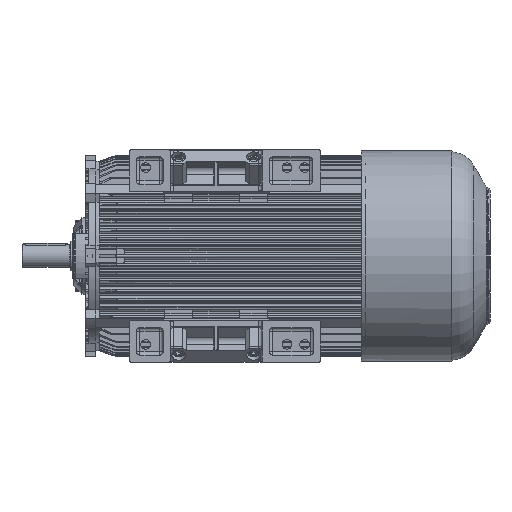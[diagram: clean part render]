
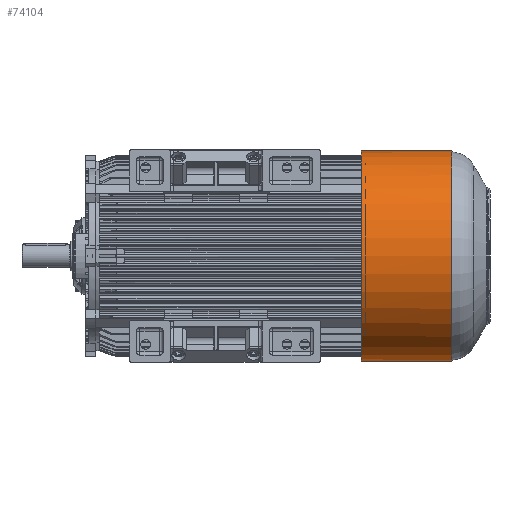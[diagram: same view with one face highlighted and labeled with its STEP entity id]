
A CAD part, front view. The second image highlights one B-rep face of the part: STEP entity #74104.
In plain terms, the highlighted cylindrical face has radius 302.496 mm (diameter 604.992 mm), a full revolution.
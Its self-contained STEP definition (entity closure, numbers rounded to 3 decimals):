
#2602=B_SPLINE_CURVE_WITH_KNOTS('',3,(#101230,#101231,#101232,#101233,#101234,
#101235,#101236,#101237,#101238,#101239,#101240,#101241,#101242,#101243,
#101244,#101245,#101246,#101247,#101248,#101249,#101250,#101251,#101252,
#101253,#101254,#101255,#101256,#101257,#101258),.UNSPECIFIED.,.F.,.F.,
(4,1,1,1,1,1,1,1,1,1,1,1,1,1,1,1,1,1,1,1,1,1,1,1,1,1,4),(0.,0.01,
0.015,0.02,0.03,0.04,
0.05,0.055,0.06,0.065,
0.07,0.075,0.08,0.085,
0.09,0.095,0.1,0.105,
0.11,0.12,0.125,0.13,
0.135,0.14,0.145,0.15,
0.16),.UNSPECIFIED.);
#4708=CIRCLE('',#78616,302.496);
#4709=CIRCLE('',#78617,302.496);
#4712=CIRCLE('',#78623,302.496);
#4719=CIRCLE('',#78638,302.496);
#13968=ORIENTED_EDGE('',*,*,#25458,.T.);
#13969=ORIENTED_EDGE('',*,*,#25454,.F.);
#13970=ORIENTED_EDGE('',*,*,#25447,.F.);
#13971=ORIENTED_EDGE('',*,*,#22788,.T.);
#13972=ORIENTED_EDGE('',*,*,#25446,.F.);
#13973=ORIENTED_EDGE('',*,*,#25453,.F.);
#13974=ORIENTED_EDGE('',*,*,#25465,.F.);
#22788=EDGE_CURVE('',#30002,#30000,#2602,.T.);
#25446=EDGE_CURVE('',#31773,#30000,#4708,.T.);
#25447=EDGE_CURVE('',#30002,#31774,#4709,.T.);
#25453=EDGE_CURVE('',#31778,#31773,#36461,.F.);
#25454=EDGE_CURVE('',#31774,#31779,#36462,.T.);
#25458=EDGE_CURVE('',#31782,#31782,#4712,.T.);
#25465=EDGE_CURVE('',#31779,#31778,#4719,.T.);
#30000=VERTEX_POINT('',#101228);
#30002=VERTEX_POINT('',#101259);
#31773=VERTEX_POINT('',#111733);
#31774=VERTEX_POINT('',#111735);
#31778=VERTEX_POINT('',#111745);
#31779=VERTEX_POINT('',#111749);
#31782=VERTEX_POINT('',#111757);
#36461=LINE('',#111746,#40231);
#36462=LINE('',#111748,#40232);
#40231=VECTOR('',#89408,1000.);
#40232=VECTOR('',#89411,1000.);
#43412=EDGE_LOOP('',(#13968));
#43413=EDGE_LOOP('',(#13969,#13970,#13971,#13972,#13973,#13974));
#47180=FACE_BOUND('',#43412,.T.);
#47181=FACE_BOUND('',#43413,.T.);
#49849=CYLINDRICAL_SURFACE('',#78639,302.496);
#74104=ADVANCED_FACE('',(#47180,#47181),#49849,.T.);
#78616=AXIS2_PLACEMENT_3D('',#111732,#89396,#89397);
#78617=AXIS2_PLACEMENT_3D('',#111734,#89398,#89399);
#78623=AXIS2_PLACEMENT_3D('',#111756,#89418,#89419);
#78638=AXIS2_PLACEMENT_3D('',#111777,#89448,#89449);
#78639=AXIS2_PLACEMENT_3D('',#111778,#89450,#89451);
#89396=DIRECTION('',(-1.,0.,0.));
#89397=DIRECTION('',(0.,0.,1.));
#89398=DIRECTION('',(-1.,0.,0.));
#89399=DIRECTION('',(0.,0.,1.));
#89408=DIRECTION('',(-1.,0.,0.));
#89411=DIRECTION('',(-1.,0.,0.));
#89418=DIRECTION('',(-1.,0.,0.));
#89419=DIRECTION('',(0.,1.,0.));
#89448=DIRECTION('',(-1.,0.,0.));
#89449=DIRECTION('',(0.,1.,0.));
#89450=DIRECTION('',(-1.,0.,0.));
#89451=DIRECTION('',(0.,1.,0.));
#101228=CARTESIAN_POINT('',(758.824,297.83,52.926));
#101230=CARTESIAN_POINT('',(758.824,297.83,-52.926));
#101231=CARTESIAN_POINT('',(762.21,297.862,-52.747));
#101232=CARTESIAN_POINT('',(767.182,297.995,-51.998));
#101233=CARTESIAN_POINT('',(773.594,298.322,-50.088));
#101234=CARTESIAN_POINT('',(779.88,298.743,-47.536));
#101235=CARTESIAN_POINT('',(787.068,299.394,-43.347));
#101236=CARTESIAN_POINT('',(794.742,300.297,-36.654));
#101237=CARTESIAN_POINT('',(799.863,301.018,-30.112));
#101238=CARTESIAN_POINT('',(803.244,301.535,-24.241));
#101239=CARTESIAN_POINT('',(805.321,301.868,-19.67));
#101240=CARTESIAN_POINT('',(806.955,302.14,-14.941));
#101241=CARTESIAN_POINT('',(808.145,302.343,-10.038));
#101242=CARTESIAN_POINT('',(808.866,302.469,-5.004));
#101243=CARTESIAN_POINT('',(809.1,302.51,0.004));
#101244=CARTESIAN_POINT('',(808.865,302.469,5.015));
#101245=CARTESIAN_POINT('',(808.142,302.343,10.055));
#101246=CARTESIAN_POINT('',(806.952,302.139,14.949));
#101247=CARTESIAN_POINT('',(805.317,301.867,19.681));
#101248=CARTESIAN_POINT('',(803.232,301.533,24.266));
#101249=CARTESIAN_POINT('',(799.853,301.016,30.125));
#101250=CARTESIAN_POINT('',(795.758,300.44,35.352));
#101251=CARTESIAN_POINT('',(790.878,299.842,40.033));
#101252=CARTESIAN_POINT('',(786.937,299.408,43.146));
#101253=CARTESIAN_POINT('',(782.743,299.003,45.862));
#101254=CARTESIAN_POINT('',(778.287,298.636,48.185));
#101255=CARTESIAN_POINT('',(773.575,298.321,50.094));
#101256=CARTESIAN_POINT('',(767.179,297.995,51.999));
#101257=CARTESIAN_POINT('',(762.211,297.862,52.747));
#101258=CARTESIAN_POINT('',(758.824,297.83,52.926));
#101259=CARTESIAN_POINT('',(758.824,297.83,-52.926));
#111732=CARTESIAN_POINT('',(758.824,0.,0.));
#111733=CARTESIAN_POINT('',(758.824,296.486,60.));
#111734=CARTESIAN_POINT('',(758.824,0.,0.));
#111735=CARTESIAN_POINT('',(758.824,296.486,-60.));
#111745=CARTESIAN_POINT('',(746.49,296.486,60.));
#111746=CARTESIAN_POINT('',(686.49,296.486,60.));
#111748=CARTESIAN_POINT('',(686.49,296.486,-60.));
#111749=CARTESIAN_POINT('',(746.49,296.486,-60.));
#111756=CARTESIAN_POINT('',(1006.49,0.,0.));
#111757=CARTESIAN_POINT('',(1006.49,302.496,0.));
#111777=CARTESIAN_POINT('',(746.49,0.,0.));
#111778=CARTESIAN_POINT('',(686.49,0.,0.));
